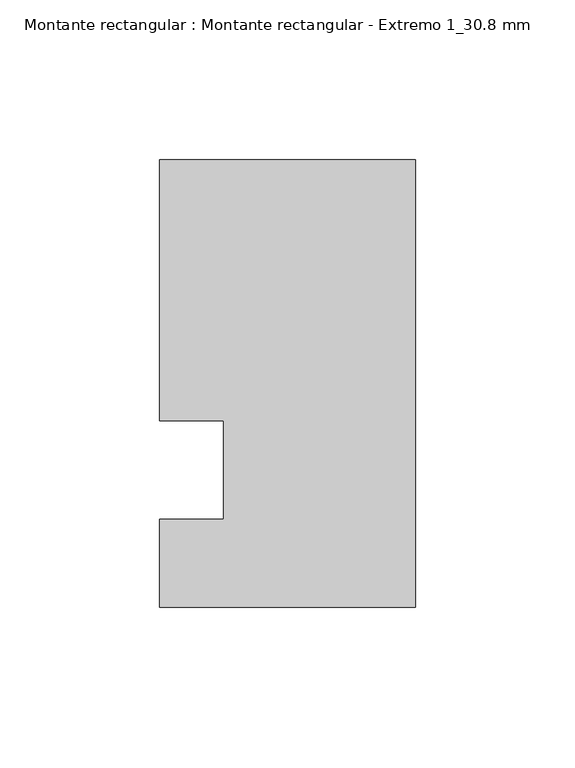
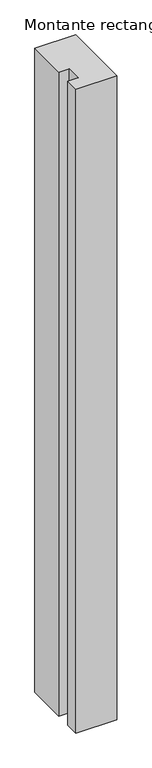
"""IFC4 building model written with IfcOpenShell, lengths in millimetres: member geometry, Montante rectangular : Montante rectangular - Extremo 1_30.8 mm."""

from ifc_helpers import new_model, si_unit, frame, origin, place, context, project, spatial, polyline, outline, extrude, source, transform, mapped, element, save


def montante_rectangular_montante_rectangular_extremo_1_30_8_mm_5074caf2(model_context):
    return source(origin(), model_context, "Body", "SweptSolid", [
        extrude(outline(polyline([(0.0, 80.0), (0.0, -60.0), (-80.0, -60.0), (-80.0, -32.4), (-60.0, -32.4), (-60.0, -1.6), (-80.0, -1.6), (-80.0, 80.0), (0.0, 80.0)])), frame((0.0, 0.0, -1340.0), z_axis=(0.0, 0.0, 1.0), x_axis=(1.0, 0.0, 0.0)), (0.0, 0.0, 1.0), 1340.0),
    ])


if __name__ == "__main__":
    model = new_model("IFC4")
    model_context = context("Model", 3, world=origin())
    ifc_project = project(units=[si_unit("LENGTHUNIT", "METRE", prefix="MILLI")], contexts=[model_context])
    site = spatial("IfcSite", under=ifc_project)
    building = spatial("IfcBuilding", under=site)
    placement = place(None, origin())
    montante_rectangular_montante_rectangular_extremo_1_30_8_mm_shape = montante_rectangular_montante_rectangular_extremo_1_30_8_mm_5074caf2(model_context)
    element("IfcMember", 1, ObjectType="Montante rectangular : Montante rectangular - Extremo 1_30.8 mm", at=placement, inside=building, context=model_context, shape_type="MappedRepresentation", body=[
        mapped(montante_rectangular_montante_rectangular_extremo_1_30_8_mm_shape, transform((0.0, 0.0, 0.0), x_axis=(1.0, 0.0, 0.0), y_axis=(0.0, 1.0, 0.0), z_axis=(0.0, 0.0, 1.0))),
    ])
    save(model, "model.ifc")
